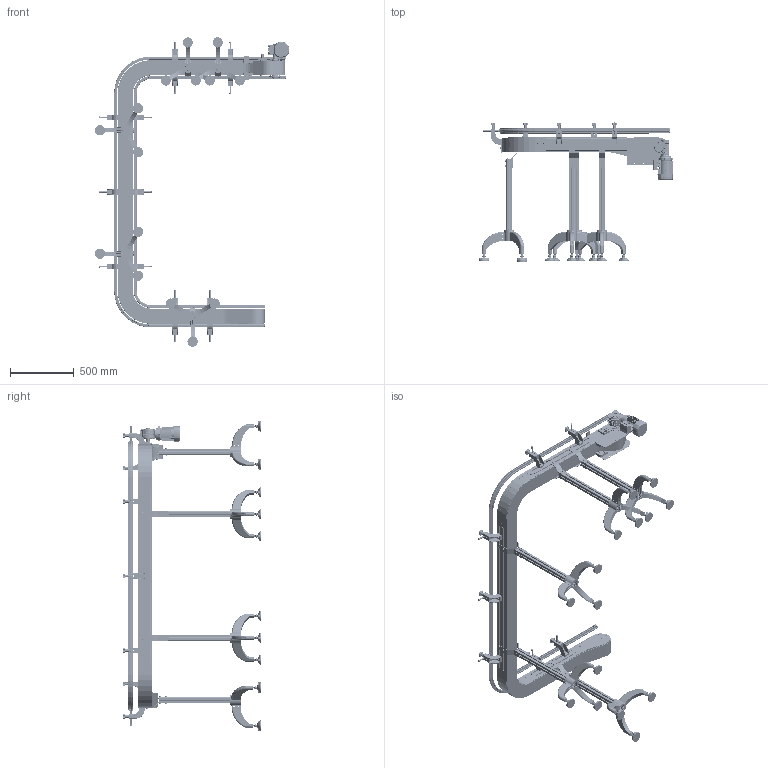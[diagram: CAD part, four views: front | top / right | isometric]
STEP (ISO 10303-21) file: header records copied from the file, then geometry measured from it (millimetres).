
FILE_DESCRIPTION (( 'STEP AP203' ), '1' );
FILE_NAME ('NASTRO_CATENA.step', '2026-04-22T06:46:27', ( 'Utente Windows' ), ( '' ), 'SwSTEP 2.0', 'SolidWorks 2024', '' );
FILE_SCHEMA (( 'CONFIG_CONTROL_DESIGN' ));
Length unit declared in the file: millimetre
Products named in the file (76): 2000.001.001; 084.312.006; CHIAVETTE_A 8x7x50 UNI 6604-69; TRIPIEDE_GAMBE_KP325; DADI ESAGONALI AUTOBLOCCANTI UNI 7473 INOX_M6 UNI 7473 INOX; 2000.001.208-1; 2000.450.201-1S; 2000.001.011; 2000.001.207-2; VITI TE UNI 5739 INOX_M8x20 UNI 5739 INOX; 2000.450.005_Default<A macchina>; 084.302.016; 2000.001.402; 084.711.002; K450_3_Default<A macchina>; 663151_NS880T12R25; 084.711.005; VITI TE UNI 5739 INOX_M6x30 UNI 5739 INOX; GAMBE_KP325_Default<A macchina>; 25UNI7435; 2000.325.206-1; 2000.001.004-3; PU008.012.025N; VITI TCEI UNI 5931 INOX_M6x30 UNI 5931 INOX; VITI TSEI UNI 5933 INOX_0410UNI5933A2; FLANGIA_GAMBE_KP450; 2000.450.422; VITI TE UNI 5739 INOX_M8x16 UNI 5739 INOX; 084.712.002; 084.301.000 VITI ALUSIC_084.301.002; K450_2_Default<A macchina>; CHIAVETTE_A 8x7x70 UNI 6604-69; 2000.450.001; CH05P_DX; VITI TSEI UNI 5933 INOX_0820UNI5933A2; K450_90°_D_P; K450_DIR_49_P_DX_MOTORE A DESTRA; VITI TE UNI 5739_M8x20 UNI 5739; SBPF205; K450_1_Default<A macchina>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
Assembly tree (234 placements, depth 3):
  NASTRO_CATENA
    K450_1_Default<A macchina>
    K450_2_Default<A macchina>
    K450_3_Default<A macchina>
    K450_DIR_49_P_DX_MOTORE A DESTRA
      084.802.027
      2000.001.006-2  x2
      2000.001.001  x2
      2000.001.004-3
      2000.001.003-3
      2000.001.011
      2000.450.101-1
      2000.450.001  x2
      2000.450.103-2
      2000.450.104-2
      2000.450.002  x2
      084.808.004
      PU008.012.025N
      CHIAVETTE_A 8x7x70 UNI 6604-69
      CHIAVETTE_A 8x7x50 UNI 6604-69
      SBPF205  x2
      663151_NS880T12R25
      VITI TSEI UNI 5933 INOX_0410UNI5933A2  x8
      GRANI A PUNTA CONICA UNI 5927_M8x16 UNI 5927  x8
      VITI TCEI UNI 5931 INOX_M6x30 UNI 5931 INOX  x2
      VITI TE UNI 5739 INOX_M8x20 UNI 5739 INOX
      RONDELLE FASCIA LARGA UNI 6593 INOX_8.4x32 UNI 6593 INOX
      GRANI A PUNTA PIATTA UNI 5923_M8x20 UNI 5923
      RONDELLE FASCIA LARGA UNI 6593 INOX_8.4x24 UNI 6593 INOX
      VITI TE UNI 5739 INOX_M8x16 UNI 5739 INOX  x7
      DADI ESAGONALI AUTOBLOCCANTI UNI 7473 INOX_M6 UNI 7473 INOX  x4
      084.312.006  x6
      VITI TE UNI 5739 INOX_M6x20 UNI 5739 INOX  x6
      VITI TE UNI 5739 INOX_M6x30 UNI 5739 INOX  x4
      VITI TE UNI 5739 INOX_M6x12 UNI 5739 INOX  x4
    K450_90°_D_P  x2
      2000.001.402
      2000.450.005_Default<A macchina>
      2000.450.421_2000.450.421
      2000.450.422
      2000.450.423
      VITI TSEI UNI 5933 INOX_0820UNI5933A2
      VITI TSEI UNI 5933 INOX_0620UNI5933A2
      084.302.000 DADI ALUSIC 13x13-1_084.302.008
    K450_R_P
      2000.001.206-2
      2000.001.207-2
      2000.450.201-1S
      2000.001.208-1
      2000.001.209-1
      2000.450.003  x2
      2000.001.001  x2
      2000.450.001  x2
      2000.325.206-1
      PROFILO POLIZENE LARGO  x2
      VITI TSEI UNI 5933 INOX_0620UNI5933A2  x8
      VITI TSEI UNI 5933 INOX_0410UNI5933A2  x14
      VITI TSEI UNI 5933 INOX_0820UNI5933A2  x2
      GRANI A PUNTA CONICA UNI 5927 INOX_M8x14 UNI 5927 INOX  x8
      25UNI7435  x2
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Bounding box: 1524.3 x 1088.47 x 2428 mm (x, y, z)
Volume: 43511301.3 mm3; surface area: 16031534.5 mm2
Topology: 479 solids, 488 shells, 19880 faces, 47520 edges, 28793 vertices
Faces by surface type: cylinder 6990, plane 6837, cone 4153, torus 962, bspline 854, sphere 84
Entity records: 204262 total; most frequent: CARTESIAN_POINT 56734, DIRECTION 28834, ORIENTED_EDGE 28020, EDGE_CURVE 14021, AXIS2_PLACEMENT_3D 10560, VERTEX_POINT 8703, VECTOR 7714, LINE 7714
